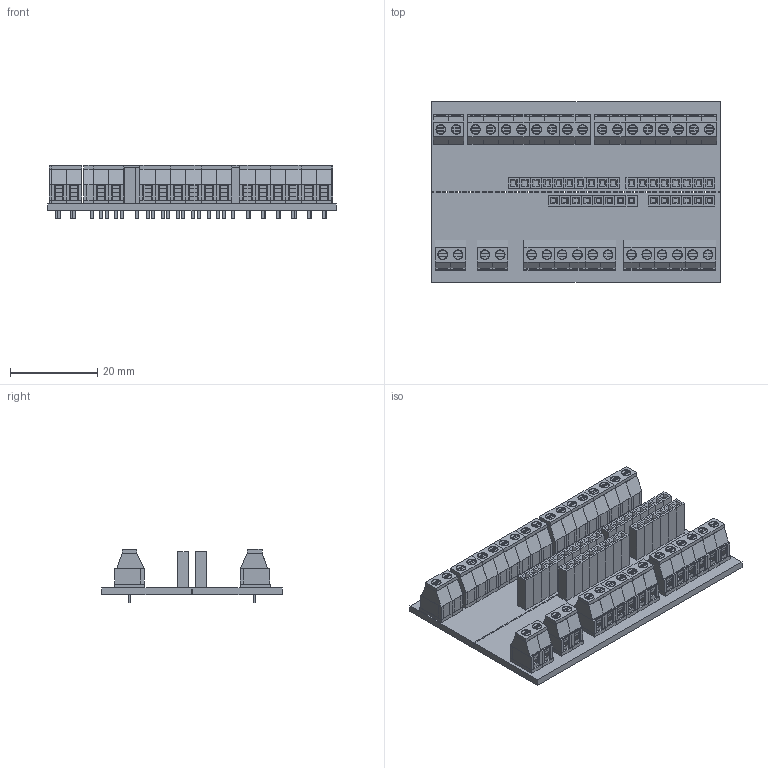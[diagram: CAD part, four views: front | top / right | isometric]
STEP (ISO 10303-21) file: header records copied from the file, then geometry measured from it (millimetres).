
FILE_DESCRIPTION(/* description */ (''),/* implementation_level */ '2;1');
FILE_NAME(/* name */ 'DFR006~1',/* time_stamp */ '2023-08-28T09:19:04+08:00',/* author */ (''),/* organization */ (''),/* preprocessor_version */ 'ST-DEVELOPER v16.5',/* originating_system */ '',/* authorisation */ '');
FILE_SCHEMA (('AUTOMOTIVE_DESIGN'));
Products named in the file (1): Document
Bounding box: 66.03 x 41.37 x 12.14 mm (x, y, z)
Volume: 10432.9 mm3; surface area: 22904 mm2
Topology: 464 solids, 464 shells, 4416 faces, 10026 edges, 6604 vertices
Faces by surface type: plane 3820, bspline 596
Entity records: 117499 total; most frequent: CARTESIAN_POINT 40398, ORIENTED_EDGE 20052, EDGE_CURVE 10026, B_SPLINE_CURVE_WITH_KNOTS 9520, VERTEX_POINT 6604, EDGE_LOOP 4768, ADVANCED_FACE 4416, FACE_OUTER_BOUND 4416
